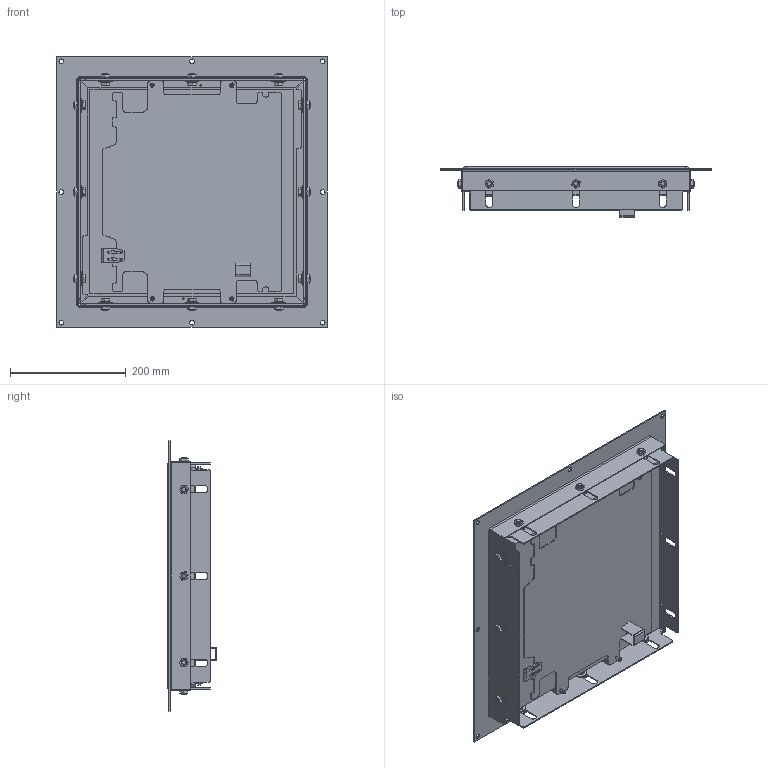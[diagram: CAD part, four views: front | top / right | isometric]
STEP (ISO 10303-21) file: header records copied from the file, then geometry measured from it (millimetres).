
FILE_DESCRIPTION (( 'STEP AP214' ), '1' );
FILE_NAME ('MS-I-10-GKF_120715_120723.STEP', '2019-02-06T13:11:47', ( '' ), ( '' ), 'SwSTEP 2.0', 'SolidWorks 2018', '' );
FILE_SCHEMA (( 'AUTOMOTIVE_DESIGN' ));
Length unit declared in the file: millimetre
Products named in the file (1): MS-I-10-GKF_120715_120723
Bounding box: 468 x 85.97 x 468 mm (x, y, z)
Volume: 6734601.6 mm3; surface area: 882722.3 mm2
Topology: 1 solids, 1 shells, 1670 faces, 4335 edges, 2632 vertices
Faces by surface type: cylinder 670, plane 664, bspline 176, cone 96, torus 64
Entity records: 80752 total; most frequent: CARTESIAN_POINT 23416, ORIENTED_EDGE 8478, DIRECTION 7889, EDGE_CURVE 4239, AXIS2_PLACEMENT_3D 2921, VERTEX_POINT 2632, LINE 2047, VECTOR 2047
